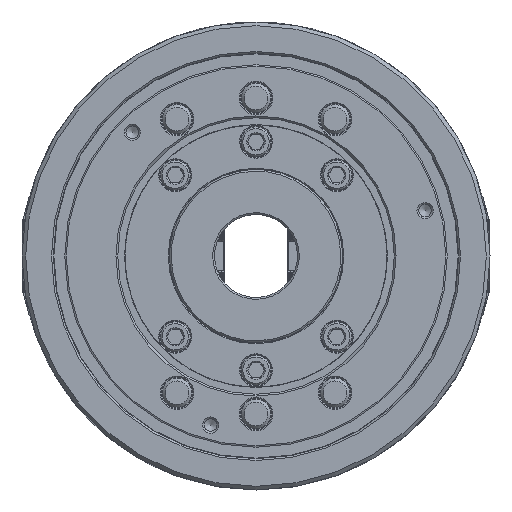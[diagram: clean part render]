
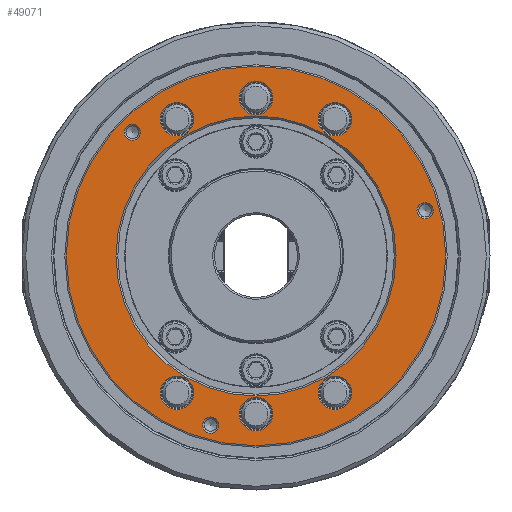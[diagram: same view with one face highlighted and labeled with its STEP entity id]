
A CAD part, left-side view. The second image highlights one B-rep face of the part: STEP entity #49071.
In plain terms, the highlighted planar face has unit normal (-1, 0, 0).
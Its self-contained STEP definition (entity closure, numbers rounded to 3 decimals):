
#588 = VERTEX_POINT ( 'NONE', #29649 ) ;
#917 = ORIENTED_EDGE ( 'NONE', *, *, #71807, .F. ) ;
#1322 = CARTESIAN_POINT ( 'NONE',  ( -95., 42.862, -74.24 ) ) ;
#1376 = EDGE_LOOP ( 'NONE', ( #33028 ) ) ;
#1657 = DIRECTION ( 'NONE',  ( 1., 0., 0. ) ) ;
#3906 = ORIENTED_EDGE ( 'NONE', *, *, #46995, .T. ) ;
#5188 = DIRECTION ( 'NONE',  ( 0., 0., -1. ) ) ;
#5321 = FACE_BOUND ( 'NONE', #62080, .T. ) ;
#5719 = CARTESIAN_POINT ( 'NONE',  ( -95., 24.588, -91.763 ) ) ;
#6255 = FACE_BOUND ( 'NONE', #41427, .T. ) ;
#8662 = CARTESIAN_POINT ( 'NONE',  ( -95., -42.863, -74.24 ) ) ;
#9087 = CARTESIAN_POINT ( 'NONE',  ( -95., 42.863, 65.14 ) ) ;
#9091 = CIRCLE ( 'NONE', #36137, 9.1 ) ;
#9396 = ORIENTED_EDGE ( 'NONE', *, *, #75791, .T. ) ;
#11257 = EDGE_LOOP ( 'NONE', ( #40168 ) ) ;
#13289 = PLANE ( 'NONE',  #87970 ) ;
#14154 = CARTESIAN_POINT ( 'NONE',  ( -95., -42.862, 65.14 ) ) ;
#14626 = ORIENTED_EDGE ( 'NONE', *, *, #82141, .T. ) ;
#15577 = DIRECTION ( 'NONE',  ( 1., 0., 0. ) ) ;
#16630 = DIRECTION ( 'NONE',  ( -1., 0., 0. ) ) ;
#16771 = DIRECTION ( 'NONE',  ( 1., 0., 0. ) ) ;
#16905 = EDGE_LOOP ( 'NONE', ( #917 ) ) ;
#18281 = EDGE_LOOP ( 'NONE', ( #83611 ) ) ;
#19307 = DIRECTION ( 'NONE',  ( 1., 0., 0. ) ) ;
#19802 = CIRCLE ( 'NONE', #55649, 9.1 ) ;
#20211 = DIRECTION ( 'NONE',  ( 0., 0., -1. ) ) ;
#20341 = FACE_BOUND ( 'NONE', #79971, .T. ) ;
#21173 = CARTESIAN_POINT ( 'NONE',  ( -95., -42.862, 74.24 ) ) ;
#21207 = AXIS2_PLACEMENT_3D ( 'NONE', #5719, #42809, #35763 ) ;
#24660 = DIRECTION ( 'NONE',  ( 1., 0., 0. ) ) ;
#24874 = ORIENTED_EDGE ( 'NONE', *, *, #49043, .F. ) ;
#26266 = CIRCLE ( 'NONE', #87774, 9.1 ) ;
#26477 = FACE_BOUND ( 'NONE', #82598, .T. ) ;
#26628 = AXIS2_PLACEMENT_3D ( 'NONE', #21173, #33858, #26835 ) ;
#26835 = DIRECTION ( 'NONE',  ( 0., 0., -1. ) ) ;
#27694 = CARTESIAN_POINT ( 'NONE',  ( -95., 24.588, -87.363 ) ) ;
#27843 = FACE_BOUND ( 'NONE', #1376, .T. ) ;
#28731 = VERTEX_POINT ( 'NONE', #14154 ) ;
#29427 = EDGE_CURVE ( 'NONE', #68094, #68094, #49371, .T. ) ;
#29461 = CIRCLE ( 'NONE', #53543, 4.4 ) ;
#29649 = CARTESIAN_POINT ( 'NONE',  ( -95., 42.862, -83.34 ) ) ;
#30688 = CARTESIAN_POINT ( 'NONE',  ( -95., 0., 76.625 ) ) ;
#33028 = ORIENTED_EDGE ( 'NONE', *, *, #55625, .T. ) ;
#33858 = DIRECTION ( 'NONE',  ( 1., 0., 0. ) ) ;
#35763 = DIRECTION ( 'NONE',  ( 0., 0., 1. ) ) ;
#36137 = AXIS2_PLACEMENT_3D ( 'NONE', #79053, #80432, #73364 ) ;
#36263 = CARTESIAN_POINT ( 'NONE',  ( -95., 0., -76. ) ) ;
#36888 = CIRCLE ( 'NONE', #81938, 76. ) ;
#39629 = ORIENTED_EDGE ( 'NONE', *, *, #77221, .T. ) ;
#40157 = DIRECTION ( 'NONE',  ( 0., 0., -1. ) ) ;
#40168 = ORIENTED_EDGE ( 'NONE', *, *, #29427, .F. ) ;
#41427 = EDGE_LOOP ( 'NONE', ( #56458 ) ) ;
#41815 = CARTESIAN_POINT ( 'NONE',  ( -95., 0., 85.725 ) ) ;
#42809 = DIRECTION ( 'NONE',  ( -1., 0., 0. ) ) ;
#43347 = DIRECTION ( 'NONE',  ( 0., 0., -1. ) ) ;
#45465 = DIRECTION ( 'NONE',  ( 0., 0., -1. ) ) ;
#45757 = VERTEX_POINT ( 'NONE', #30688 ) ;
#45769 = CIRCLE ( 'NONE', #48763, 9.1 ) ;
#46692 = CARTESIAN_POINT ( 'NONE',  ( -95., -42.863, -83.34 ) ) ;
#46995 = EDGE_CURVE ( 'NONE', #45757, #45757, #26266, .T. ) ;
#47110 = ORIENTED_EDGE ( 'NONE', *, *, #74234, .T. ) ;
#47114 = CARTESIAN_POINT ( 'NONE',  ( -95., -91.763, 24.588 ) ) ;
#48763 = AXIS2_PLACEMENT_3D ( 'NONE', #1322, #16771, #45465 ) ;
#49025 = FACE_BOUND ( 'NONE', #62134, .T. ) ;
#49043 = EDGE_CURVE ( 'NONE', #73485, #73485, #29461, .T. ) ;
#49071 = ADVANCED_FACE ( 'NONE', ( #5321, #91783, #63591, #61771, #6255, #78180, #26477, #20341, #27843, #90410, #49025 ), #13289, .F. ) ;
#49371 = CIRCLE ( 'NONE', #58366, 4.4 ) ;
#49492 = DIRECTION ( 'NONE',  ( 1., 0., 0. ) ) ;
#52783 = EDGE_LOOP ( 'NONE', ( #3906 ) ) ;
#52867 = CARTESIAN_POINT ( 'NONE',  ( -95., 67.175, 67.175 ) ) ;
#53249 = DIRECTION ( 'NONE',  ( 0., 0., 1. ) ) ;
#53543 = AXIS2_PLACEMENT_3D ( 'NONE', #52867, #16630, #81528 ) ;
#54714 = DIRECTION ( 'NONE',  ( 0., 0., -1. ) ) ;
#55625 = EDGE_CURVE ( 'NONE', #88027, #88027, #72170, .T. ) ;
#55649 = AXIS2_PLACEMENT_3D ( 'NONE', #89042, #24660, #40157 ) ;
#55827 = EDGE_CURVE ( 'NONE', #66900, #66900, #9091, .T. ) ;
#56458 = ORIENTED_EDGE ( 'NONE', *, *, #55827, .T. ) ;
#58366 = AXIS2_PLACEMENT_3D ( 'NONE', #47114, #74865, #53249 ) ;
#61771 = FACE_BOUND ( 'NONE', #52783, .T. ) ;
#61954 = CARTESIAN_POINT ( 'NONE',  ( -95., -91.763, 28.988 ) ) ;
#62080 = EDGE_LOOP ( 'NONE', ( #24874 ) ) ;
#62134 = EDGE_LOOP ( 'NONE', ( #9396 ) ) ;
#63195 = AXIS2_PLACEMENT_3D ( 'NONE', #8662, #1657, #81053 ) ;
#63298 = CIRCLE ( 'NONE', #21207, 4.4 ) ;
#63591 = FACE_BOUND ( 'NONE', #73216, .T. ) ;
#63927 = CARTESIAN_POINT ( 'NONE',  ( -95., 0., 0. ) ) ;
#65361 = AXIS2_PLACEMENT_3D ( 'NONE', #63927, #19307, #20211 ) ;
#66900 = VERTEX_POINT ( 'NONE', #9087 ) ;
#67377 = CARTESIAN_POINT ( 'NONE',  ( -95., 67.175, 71.575 ) ) ;
#68094 = VERTEX_POINT ( 'NONE', #61954 ) ;
#69237 = VERTEX_POINT ( 'NONE', #90374 ) ;
#71406 = DIRECTION ( 'NONE',  ( 1., 0., 0. ) ) ;
#71807 = EDGE_CURVE ( 'NONE', #69237, #69237, #78882, .T. ) ;
#72170 = CIRCLE ( 'NONE', #63195, 9.1 ) ;
#73216 = EDGE_LOOP ( 'NONE', ( #39629 ) ) ;
#73364 = DIRECTION ( 'NONE',  ( 0., 0., -1. ) ) ;
#73372 = VERTEX_POINT ( 'NONE', #89332 ) ;
#73485 = VERTEX_POINT ( 'NONE', #67377 ) ;
#74234 = EDGE_CURVE ( 'NONE', #588, #588, #45769, .T. ) ;
#74865 = DIRECTION ( 'NONE',  ( -1., 0., 0. ) ) ;
#75791 = EDGE_CURVE ( 'NONE', #86997, #86997, #36888, .T. ) ;
#76653 = VERTEX_POINT ( 'NONE', #27694 ) ;
#77221 = EDGE_CURVE ( 'NONE', #28731, #28731, #92629, .T. ) ;
#78180 = FACE_BOUND ( 'NONE', #18281, .T. ) ;
#78882 = CIRCLE ( 'NONE', #65361, 103. ) ;
#79053 = CARTESIAN_POINT ( 'NONE',  ( -95., 42.863, 74.24 ) ) ;
#79106 = CARTESIAN_POINT ( 'NONE',  ( -95., 0., 0. ) ) ;
#79971 = EDGE_LOOP ( 'NONE', ( #14626 ) ) ;
#80432 = DIRECTION ( 'NONE',  ( 1., 0., 0. ) ) ;
#81053 = DIRECTION ( 'NONE',  ( 0., 0., -1. ) ) ;
#81528 = DIRECTION ( 'NONE',  ( 0., 0., 1. ) ) ;
#81938 = AXIS2_PLACEMENT_3D ( 'NONE', #79106, #15577, #43347 ) ;
#82141 = EDGE_CURVE ( 'NONE', #73372, #73372, #19802, .T. ) ;
#82598 = EDGE_LOOP ( 'NONE', ( #47110 ) ) ;
#83536 = EDGE_CURVE ( 'NONE', #76653, #76653, #63298, .T. ) ;
#83611 = ORIENTED_EDGE ( 'NONE', *, *, #83536, .F. ) ;
#85184 = CARTESIAN_POINT ( 'NONE',  ( -95., -103., 0. ) ) ;
#86997 = VERTEX_POINT ( 'NONE', #36263 ) ;
#87774 = AXIS2_PLACEMENT_3D ( 'NONE', #41815, #71406, #5188 ) ;
#87970 = AXIS2_PLACEMENT_3D ( 'NONE', #85184, #49492, #54714 ) ;
#88027 = VERTEX_POINT ( 'NONE', #46692 ) ;
#89042 = CARTESIAN_POINT ( 'NONE',  ( -95., 0., -85.725 ) ) ;
#89332 = CARTESIAN_POINT ( 'NONE',  ( -95., 0., -94.825 ) ) ;
#90374 = CARTESIAN_POINT ( 'NONE',  ( -95., 0., -103. ) ) ;
#90410 = FACE_OUTER_BOUND ( 'NONE', #16905, .T. ) ;
#91783 = FACE_BOUND ( 'NONE', #11257, .T. ) ;
#92629 = CIRCLE ( 'NONE', #26628, 9.1 ) ;
